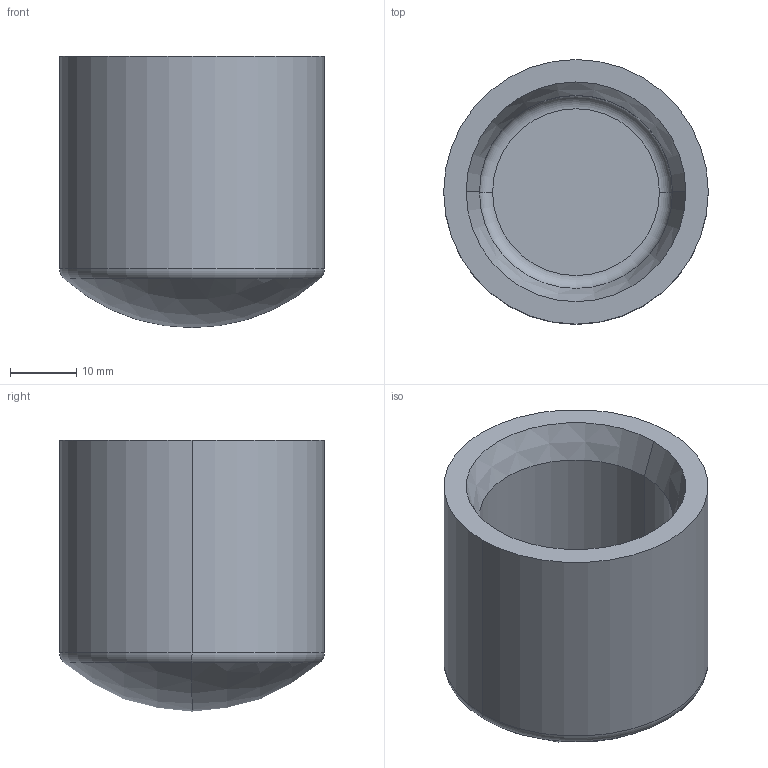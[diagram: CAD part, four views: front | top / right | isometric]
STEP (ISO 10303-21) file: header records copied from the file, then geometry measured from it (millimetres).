
FILE_DESCRIPTION (( 'STEP AP203' ), '1' );
FILE_NAME ('084.313.010-L.STEP', '2016-07-13T07:02:51', ( '' ), ( '' ), 'SwSTEP 2.0', 'SolidWorks 2016', '' );
FILE_SCHEMA (( 'CONFIG_CONTROL_DESIGN' ));
Length unit declared in the file: millimetre
Products named in the file (1): 084.313.010-L
Bounding box: 40 x 40 x 41 mm (x, y, z)
Volume: 25540.6 mm3; surface area: 9484.4 mm2
Topology: 1 solids, 1 shells, 14 faces, 26 edges, 15 vertices
Faces by surface type: torus 4, cylinder 4, cone 2, sphere 2, plane 2
Entity records: 431 total; most frequent: DIRECTION 76, CARTESIAN_POINT 56, ORIENTED_EDGE 52, AXIS2_PLACEMENT_3D 35, EDGE_CURVE 26, CIRCLE 20, VERTEX_POINT 15, EDGE_LOOP 15
